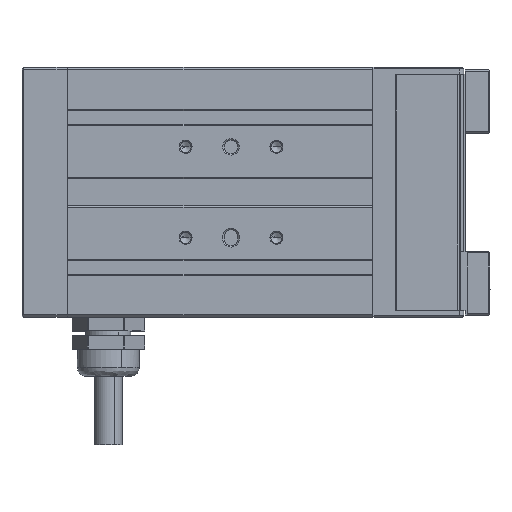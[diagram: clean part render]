
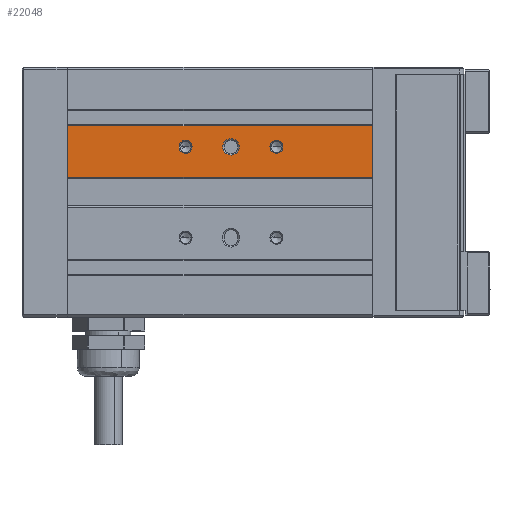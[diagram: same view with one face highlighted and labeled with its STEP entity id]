
A CAD part, top view. The second image highlights one B-rep face of the part: STEP entity #22048.
In plain terms, the highlighted planar face has unit normal (0, 0, 1).
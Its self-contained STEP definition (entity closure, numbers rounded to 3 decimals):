
#703 = VERTEX_POINT ( 'NONE', #9817 ) ;
#832 = FACE_BOUND ( 'NONE', #15330, .T. ) ;
#1051 = DIRECTION ( 'NONE',  ( 0., 0., 1. ) ) ;
#1149 = ORIENTED_EDGE ( 'NONE', *, *, #2879, .F. ) ;
#1398 = CARTESIAN_POINT ( 'NONE',  ( 60.198, -7.85, 14.791 ) ) ;
#1471 = EDGE_CURVE ( 'NONE', #15526, #9485, #2848, .T. ) ;
#1494 = DIRECTION ( 'NONE',  ( 0., -1., 0. ) ) ;
#1525 = CARTESIAN_POINT ( 'NONE',  ( 70.198, -4.621, 14.791 ) ) ;
#1576 = LINE ( 'NONE', #18598, #14814 ) ;
#1754 = EDGE_CURVE ( 'NONE', #19730, #703, #19602, .T. ) ;
#1830 = ORIENTED_EDGE ( 'NONE', *, *, #7090, .F. ) ;
#2641 = CARTESIAN_POINT ( 'NONE',  ( 50.198, -6.05, 14.791 ) ) ;
#2789 = CARTESIAN_POINT ( 'NONE',  ( 50.198, -6.05, 14.791 ) ) ;
#2848 = CIRCLE ( 'NONE', #16624, 1.429 ) ;
#2879 = EDGE_CURVE ( 'NONE', #7964, #3291, #6321, .T. ) ;
#3114 = CIRCLE ( 'NONE', #22776, 1.8 ) ;
#3153 = ORIENTED_EDGE ( 'NONE', *, *, #1754, .F. ) ;
#3198 = DIRECTION ( 'NONE',  ( 0., -1., 0. ) ) ;
#3291 = VERTEX_POINT ( 'NONE', #3683 ) ;
#3365 = ORIENTED_EDGE ( 'NONE', *, *, #14995, .F. ) ;
#3409 = ORIENTED_EDGE ( 'NONE', *, *, #4590, .F. ) ;
#3683 = CARTESIAN_POINT ( 'NONE',  ( 24.248, -12.75, 14.791 ) ) ;
#3937 = CARTESIAN_POINT ( 'NONE',  ( 50.198, -6.05, 14.791 ) ) ;
#4254 = DIRECTION ( 'NONE',  ( 0., 0., 1. ) ) ;
#4385 = VERTEX_POINT ( 'NONE', #19625 ) ;
#4396 = AXIS2_PLACEMENT_3D ( 'NONE', #4615, #6595, #22273 ) ;
#4527 = ORIENTED_EDGE ( 'NONE', *, *, #14891, .F. ) ;
#4590 = EDGE_CURVE ( 'NONE', #14991, #4385, #14513, .T. ) ;
#4615 = CARTESIAN_POINT ( 'NONE',  ( 50.198, -6.05, 14.791 ) ) ;
#4689 = VECTOR ( 'NONE', #14775, 1000. ) ;
#4701 = CARTESIAN_POINT ( 'NONE',  ( 48.944, -5.365, 14.791 ) ) ;
#5427 = DIRECTION ( 'NONE',  ( 0., -1., 0. ) ) ;
#5566 = DIRECTION ( 'NONE',  ( 0., -1., 0. ) ) ;
#5568 = CARTESIAN_POINT ( 'NONE',  ( 91.348, -12.75, 14.791 ) ) ;
#6008 = AXIS2_PLACEMENT_3D ( 'NONE', #9407, #15957, #5427 ) ;
#6119 = EDGE_LOOP ( 'NONE', ( #3409, #4527, #3365, #9159 ) ) ;
#6297 = AXIS2_PLACEMENT_3D ( 'NONE', #2641, #4254, #11339 ) ;
#6321 = LINE ( 'NONE', #14843, #4689 ) ;
#6501 = CARTESIAN_POINT ( 'NONE',  ( 70.198, -6.05, 14.791 ) ) ;
#6595 = DIRECTION ( 'NONE',  ( 0., 0., 1. ) ) ;
#6833 = LINE ( 'NONE', #17455, #9333 ) ;
#6956 = CARTESIAN_POINT ( 'NONE',  ( 24.248, -1.35, 14.791 ) ) ;
#7090 = EDGE_CURVE ( 'NONE', #703, #12945, #3114, .T. ) ;
#7116 = CIRCLE ( 'NONE', #7949, 1.8 ) ;
#7753 = ORIENTED_EDGE ( 'NONE', *, *, #16859, .F. ) ;
#7857 = DIRECTION ( 'NONE',  ( 0., 0., -1. ) ) ;
#7949 = AXIS2_PLACEMENT_3D ( 'NONE', #20271, #18632, #11515 ) ;
#7964 = VERTEX_POINT ( 'NONE', #5568 ) ;
#8130 = CARTESIAN_POINT ( 'NONE',  ( 51.628, -6.05, 14.791 ) ) ;
#8146 = VERTEX_POINT ( 'NONE', #16706 ) ;
#8599 = AXIS2_PLACEMENT_3D ( 'NONE', #3937, #11334, #16209 ) ;
#8629 = EDGE_CURVE ( 'NONE', #12945, #19730, #7116, .T. ) ;
#8921 = LINE ( 'NONE', #18938, #10590 ) ;
#8997 = ORIENTED_EDGE ( 'NONE', *, *, #8629, .F. ) ;
#9061 = CARTESIAN_POINT ( 'NONE',  ( 70.198, -6.05, 14.791 ) ) ;
#9159 = ORIENTED_EDGE ( 'NONE', *, *, #10396, .F. ) ;
#9333 = VECTOR ( 'NONE', #10415, 1000. ) ;
#9407 = CARTESIAN_POINT ( 'NONE',  ( 60.198, -6.05, 14.791 ) ) ;
#9474 = CARTESIAN_POINT ( 'NONE',  ( 58.398, -6.05, 14.791 ) ) ;
#9485 = VERTEX_POINT ( 'NONE', #1525 ) ;
#9817 = CARTESIAN_POINT ( 'NONE',  ( 61.998, -6.05, 14.791 ) ) ;
#9970 = VERTEX_POINT ( 'NONE', #8130 ) ;
#10394 = CIRCLE ( 'NONE', #11783, 1.429 ) ;
#10396 = EDGE_CURVE ( 'NONE', #4385, #17717, #22194, .T. ) ;
#10415 = DIRECTION ( 'NONE',  ( 1., 0., 0. ) ) ;
#10590 = VECTOR ( 'NONE', #3198, 1000. ) ;
#10948 = CIRCLE ( 'NONE', #4396, 1.429 ) ;
#11334 = DIRECTION ( 'NONE',  ( 0., 0., 1. ) ) ;
#11339 = DIRECTION ( 'NONE',  ( 1., 0., 0. ) ) ;
#11515 = DIRECTION ( 'NONE',  ( 0., -1., 0. ) ) ;
#11783 = AXIS2_PLACEMENT_3D ( 'NONE', #9061, #16023, #5566 ) ;
#12438 = FACE_OUTER_BOUND ( 'NONE', #21448, .T. ) ;
#12593 = CARTESIAN_POINT ( 'NONE',  ( 60.198, -6.05, 14.791 ) ) ;
#12820 = DIRECTION ( 'NONE',  ( 0., 0., 1. ) ) ;
#12866 = AXIS2_PLACEMENT_3D ( 'NONE', #2789, #1051, #13400 ) ;
#12945 = VERTEX_POINT ( 'NONE', #9474 ) ;
#13112 = PLANE ( 'NONE',  #22260 ) ;
#13400 = DIRECTION ( 'NONE',  ( 0., -1., 0. ) ) ;
#13439 = CIRCLE ( 'NONE', #6297, 1.429 ) ;
#14451 = EDGE_CURVE ( 'NONE', #19121, #8146, #6833, .T. ) ;
#14513 = CIRCLE ( 'NONE', #8599, 1.43 ) ;
#14775 = DIRECTION ( 'NONE',  ( -1., 0., 0. ) ) ;
#14814 = VECTOR ( 'NONE', #21845, 1000. ) ;
#14843 = CARTESIAN_POINT ( 'NONE',  ( 20.198, -12.75, 14.791 ) ) ;
#14883 = EDGE_CURVE ( 'NONE', #3291, #19121, #1576, .T. ) ;
#14891 = EDGE_CURVE ( 'NONE', #9970, #14991, #13439, .T. ) ;
#14991 = VERTEX_POINT ( 'NONE', #4701 ) ;
#14995 = EDGE_CURVE ( 'NONE', #17717, #9970, #10948, .T. ) ;
#15204 = EDGE_CURVE ( 'NONE', #9485, #15526, #10394, .T. ) ;
#15330 = EDGE_LOOP ( 'NONE', ( #21772, #16206 ) ) ;
#15526 = VERTEX_POINT ( 'NONE', #21890 ) ;
#15957 = DIRECTION ( 'NONE',  ( 0., 0., 1. ) ) ;
#16023 = DIRECTION ( 'NONE',  ( 0., 0., 1. ) ) ;
#16026 = CARTESIAN_POINT ( 'NONE',  ( 51.453, -6.736, 14.791 ) ) ;
#16030 = ORIENTED_EDGE ( 'NONE', *, *, #14451, .F. ) ;
#16206 = ORIENTED_EDGE ( 'NONE', *, *, #15204, .F. ) ;
#16209 = DIRECTION ( 'NONE',  ( 0., -1., 0. ) ) ;
#16465 = EDGE_LOOP ( 'NONE', ( #1830, #3153, #8997 ) ) ;
#16624 = AXIS2_PLACEMENT_3D ( 'NONE', #6501, #20514, #1494 ) ;
#16706 = CARTESIAN_POINT ( 'NONE',  ( 91.348, -1.35, 14.791 ) ) ;
#16859 = EDGE_CURVE ( 'NONE', #8146, #7964, #8921, .T. ) ;
#17455 = CARTESIAN_POINT ( 'NONE',  ( 20.198, -1.35, 14.791 ) ) ;
#17717 = VERTEX_POINT ( 'NONE', #16026 ) ;
#18385 = CARTESIAN_POINT ( 'NONE',  ( 20.198, -43.55, 14.791 ) ) ;
#18598 = CARTESIAN_POINT ( 'NONE',  ( 24.248, -43.55, 14.791 ) ) ;
#18632 = DIRECTION ( 'NONE',  ( 0., 0., 1. ) ) ;
#18938 = CARTESIAN_POINT ( 'NONE',  ( 91.348, -54.55, 14.791 ) ) ;
#19121 = VERTEX_POINT ( 'NONE', #6956 ) ;
#19602 = CIRCLE ( 'NONE', #6008, 1.8 ) ;
#19625 = CARTESIAN_POINT ( 'NONE',  ( 50.198, -7.48, 14.791 ) ) ;
#19730 = VERTEX_POINT ( 'NONE', #1398 ) ;
#20271 = CARTESIAN_POINT ( 'NONE',  ( 60.198, -6.05, 14.791 ) ) ;
#20514 = DIRECTION ( 'NONE',  ( 0., 0., 1. ) ) ;
#20941 = FACE_BOUND ( 'NONE', #6119, .T. ) ;
#21448 = EDGE_LOOP ( 'NONE', ( #1149, #7753, #16030, #22220 ) ) ;
#21502 = FACE_BOUND ( 'NONE', #16465, .T. ) ;
#21648 = DIRECTION ( 'NONE',  ( 0., -1., 0. ) ) ;
#21772 = ORIENTED_EDGE ( 'NONE', *, *, #1471, .F. ) ;
#21845 = DIRECTION ( 'NONE',  ( 0., 1., 0. ) ) ;
#21890 = CARTESIAN_POINT ( 'NONE',  ( 70.198, -7.48, 14.791 ) ) ;
#21928 = DIRECTION ( 'NONE',  ( -1., 0., 0. ) ) ;
#22048 = ADVANCED_FACE ( 'NONE', ( #832, #20941, #21502, #12438 ), #13112, .F. ) ;
#22194 = CIRCLE ( 'NONE', #12866, 1.43 ) ;
#22220 = ORIENTED_EDGE ( 'NONE', *, *, #14883, .F. ) ;
#22260 = AXIS2_PLACEMENT_3D ( 'NONE', #18385, #7857, #21928 ) ;
#22273 = DIRECTION ( 'NONE',  ( 1., 0., 0. ) ) ;
#22776 = AXIS2_PLACEMENT_3D ( 'NONE', #12593, #12820, #21648 ) ;
